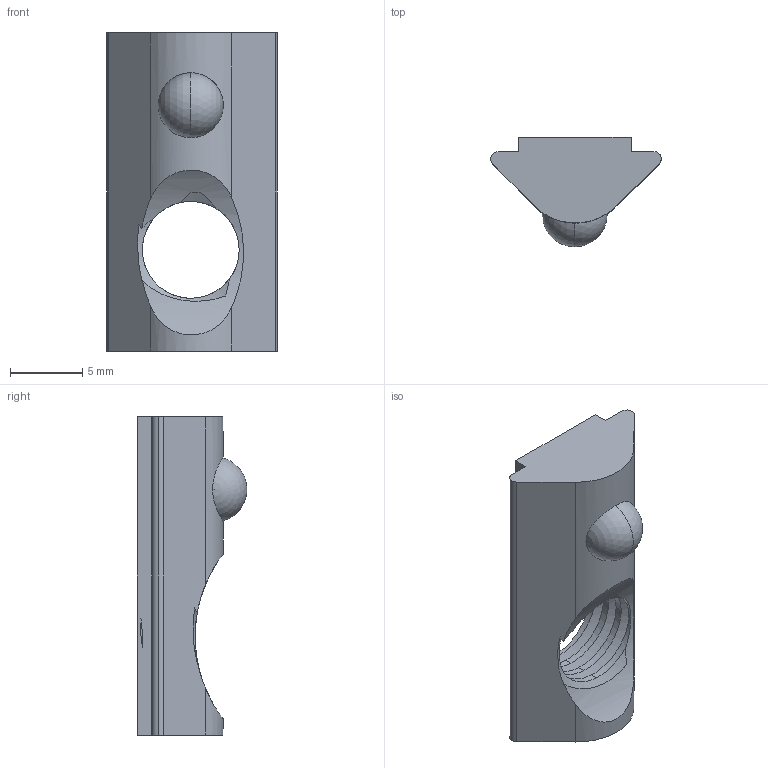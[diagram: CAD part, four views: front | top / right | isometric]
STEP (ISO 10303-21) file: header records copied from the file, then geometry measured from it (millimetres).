
FILE_DESCRIPTION (( 'STEP AP203' ), '1' );
FILE_NAME ('136-CE-EN-40-M8.STEP', '2015-07-09T09:00:20', ( '' ), ( '' ), 'SwSTEP 2.0', 'SolidWorks 2013', '' );
FILE_SCHEMA (( 'CONFIG_CONTROL_DESIGN' ));
Length unit declared in the file: millimetre
Products named in the file (1): 136-CE-EN-40-M8
Bounding box: 11.79 x 7.58 x 22 mm (x, y, z)
Volume: 790.5 mm3; surface area: 932.5 mm2
Topology: 1 solids, 1 shells, 35 faces, 114 edges, 76 vertices
Faces by surface type: cylinder 19, plane 10, bspline 4, sphere 2
Entity records: 3027 total; most frequent: CARTESIAN_POINT 2104, ORIENTED_EDGE 218, DIRECTION 131, EDGE_CURVE 109, VERTEX_POINT 73, AXIS2_PLACEMENT_3D 46, VECTOR 39, LINE 39
